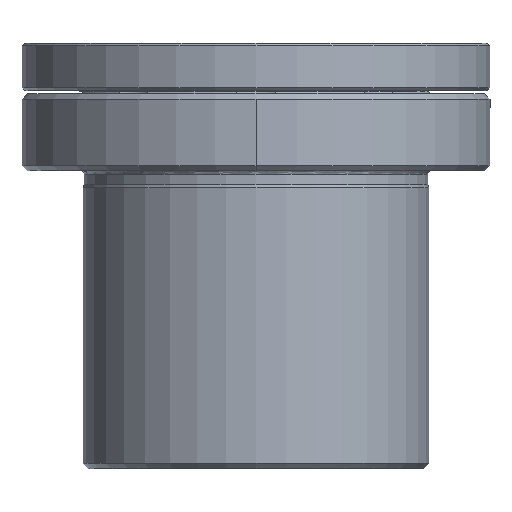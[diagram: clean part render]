
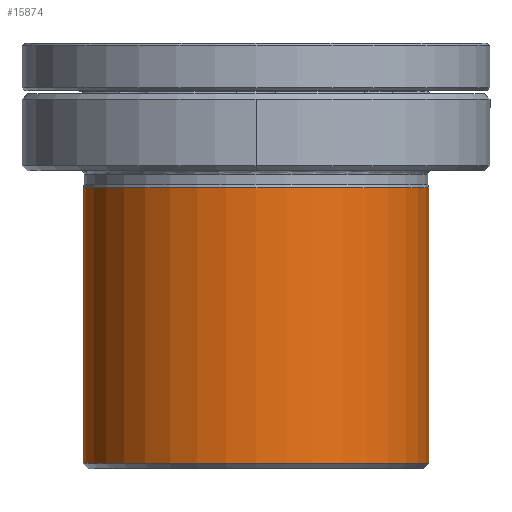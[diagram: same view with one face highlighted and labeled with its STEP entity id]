
A CAD part, front view. The second image highlights one B-rep face of the part: STEP entity #15874.
In plain terms, the highlighted cylindrical face has radius 32.5 mm (diameter 65 mm), a partial arc.
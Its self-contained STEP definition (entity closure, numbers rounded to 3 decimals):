
#3334 = CARTESIAN_POINT ( 'NONE',  ( 32.5, 0., -70. ) ) ;
#3340 = CARTESIAN_POINT ( 'NONE',  ( -32.5, 0., -70. ) ) ;
#3479 = DIRECTION ( 'NONE',  ( 0., 0., 1. ) ) ;
#3480 = VECTOR ( 'NONE', #3479, 1000. ) ;
#3481 = CARTESIAN_POINT ( 'NONE',  ( 32.5, 0., -70. ) ) ;
#3482 = LINE ( 'NONE', #3481, #3480 ) ;
#3527 = DIRECTION ( 'NONE',  ( 0., 0., 1. ) ) ;
#3528 = VECTOR ( 'NONE', #3527, 1000. ) ;
#3529 = CARTESIAN_POINT ( 'NONE',  ( -32.5, 0., -70. ) ) ;
#3530 = LINE ( 'NONE', #3529, #3528 ) ;
#3531 = CARTESIAN_POINT ( 'NONE',  ( 32.5, 0., -18.2 ) ) ;
#3536 = CARTESIAN_POINT ( 'NONE',  ( -32.5, 0., -18.2 ) ) ;
#4742 = DIRECTION ( 'NONE',  ( 1., 0., 0. ) ) ;
#4743 = DIRECTION ( 'NONE',  ( 0., 0., 1. ) ) ;
#4744 = CARTESIAN_POINT ( 'NONE',  ( 0., 0., -70. ) ) ;
#4745 = AXIS2_PLACEMENT_3D ( 'NONE', #4744, #4743, #4742 ) ;
#4746 = CIRCLE ( 'NONE', #4745, 32.5 ) ;
#4751 = DIRECTION ( 'NONE',  ( 1., 0., 0. ) ) ;
#4752 = DIRECTION ( 'NONE',  ( 0., 0., 1. ) ) ;
#4753 = AXIS2_PLACEMENT_3D ( 'NONE', #4759, #4752, #4751 ) ;
#4754 = CYLINDRICAL_SURFACE ( 'NONE', #4753, 32.5 ) ;
#4759 = CARTESIAN_POINT ( 'NONE',  ( 0., 0., -70. ) ) ;
#4760 = FACE_OUTER_BOUND ( 'NONE', #15935, .T. ) ;
#5047 = DIRECTION ( 'NONE',  ( 1., 0., 0. ) ) ;
#5048 = DIRECTION ( 'NONE',  ( 0., 0., 1. ) ) ;
#5049 = CARTESIAN_POINT ( 'NONE',  ( 0., 0., -18.2 ) ) ;
#5050 = AXIS2_PLACEMENT_3D ( 'NONE', #5049, #5048, #5047 ) ;
#5051 = CIRCLE ( 'NONE', #5050, 32.5 ) ;
#15379 = VERTEX_POINT ( 'NONE', #3340 ) ;
#15382 = VERTEX_POINT ( 'NONE', #3334 ) ;
#15471 = EDGE_CURVE ( 'NONE', #15382, #15474, #3482, .T. ) ;
#15473 = VERTEX_POINT ( 'NONE', #3536 ) ;
#15474 = VERTEX_POINT ( 'NONE', #3531 ) ;
#15475 = EDGE_CURVE ( 'NONE', #15379, #15473, #3530, .T. ) ;
#15871 = ORIENTED_EDGE ( 'NONE', *, *, #16083, .F. ) ;
#15874 = ADVANCED_FACE ( 'NONE', ( #4760 ), #4754, .T. ) ;
#15875 = ORIENTED_EDGE ( 'NONE', *, *, #15475, .F. ) ;
#15879 = ORIENTED_EDGE ( 'NONE', *, *, #15880, .T. ) ;
#15880 = EDGE_CURVE ( 'NONE', #15379, #15382, #4746, .T. ) ;
#15882 = ORIENTED_EDGE ( 'NONE', *, *, #15471, .T. ) ;
#15935 = EDGE_LOOP ( 'NONE', ( #15875, #15879, #15882, #15871 ) ) ;
#16083 = EDGE_CURVE ( 'NONE', #15473, #15474, #5051, .T. ) ;
